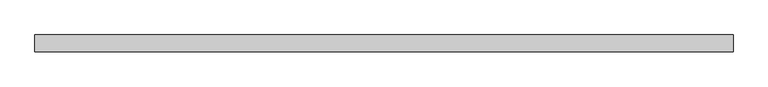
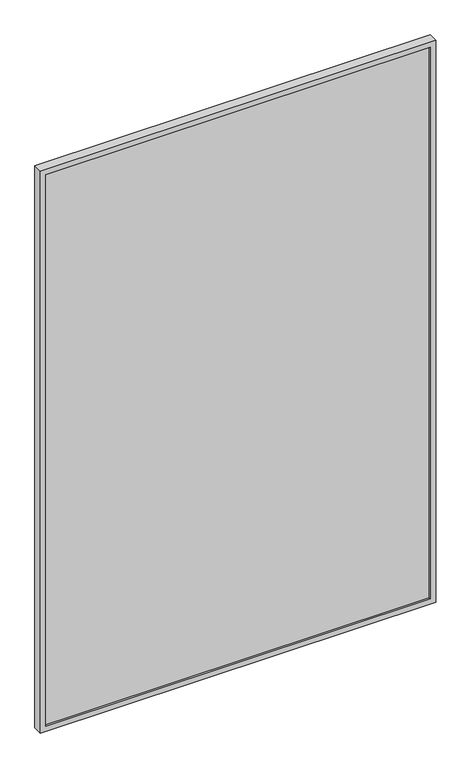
"""IFC4 building model written with IfcOpenShell, lengths in millimetres: plate geometry, ARQ-PA-IN-Vidrio Fijo Laminado  : ARQ-PA-IN-Vidrio Fijo Laminado ."""

from ifc_helpers import new_model, si_unit, frame, origin, place, context, project, spatial, polyline, outline, extrude, source, transform, mapped, element, save


def plate_78eba206(model_context):
    return source(origin(), model_context, "Body", "SweptSolid", [
        extrude(outline(polyline([(711.9998038, -10.0), (-711.9998038, -10.0), (-711.9998038, 10.0), (711.9998038, 10.0), (711.9998038, -10.0)])), frame((0.0, 0.0, 20.0), z_axis=(0.0, 0.0, 1.0), x_axis=(1.0, 0.0, 0.0)), (0.0, 0.0, 1.0), 2160.0),
        extrude(outline(polyline([(2200.0, -731.9998038), (0.0, -731.9998038), (0.0, 731.9998038), (2200.0, 731.9998038), (2200.0, -731.9998038)]), holes=[polyline([(2180.0, -711.9998038), (2180.0, 711.9998038), (20.0, 711.9998038), (20.0, -711.9998038), (2180.0, -711.9998038)])]), frame((0.0, -17.5, 0.0), z_axis=(0.0, 1.0, 0.0), x_axis=(0.0, 0.0, 1.0)), (0.0, 0.0, 1.0), 35.0),
    ])


if __name__ == "__main__":
    model = new_model("IFC4")
    model_context = context("Model", 3, world=origin())
    ifc_project = project(units=[si_unit("LENGTHUNIT", "METRE", prefix="MILLI")], contexts=[model_context])
    site = spatial("IfcSite", under=ifc_project)
    building = spatial("IfcBuilding", under=site)
    placement = place(None, origin())
    plate_shape = plate_78eba206(model_context)
    element("IfcPlate", 1, ObjectType="ARQ-PA-IN-Vidrio Fijo Laminado  : ARQ-PA-IN-Vidrio Fijo Laminado ", at=placement, inside=building, context=model_context, shape_type="MappedRepresentation", body=[
        mapped(plate_shape, transform((0.0, 0.0, 0.0), x_axis=(1.0, 0.0, 0.0), y_axis=(0.0, 1.0, 0.0), z_axis=(0.0, 0.0, 1.0))),
    ])
    save(model, "model.ifc")
